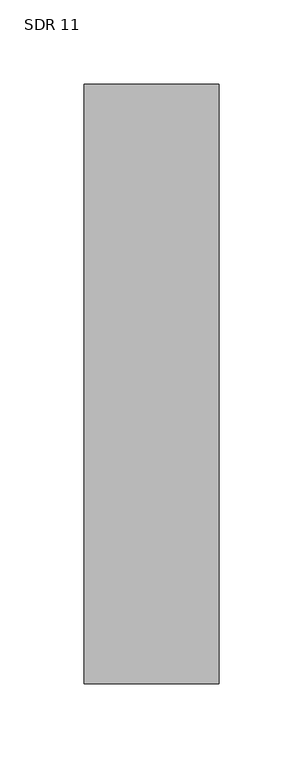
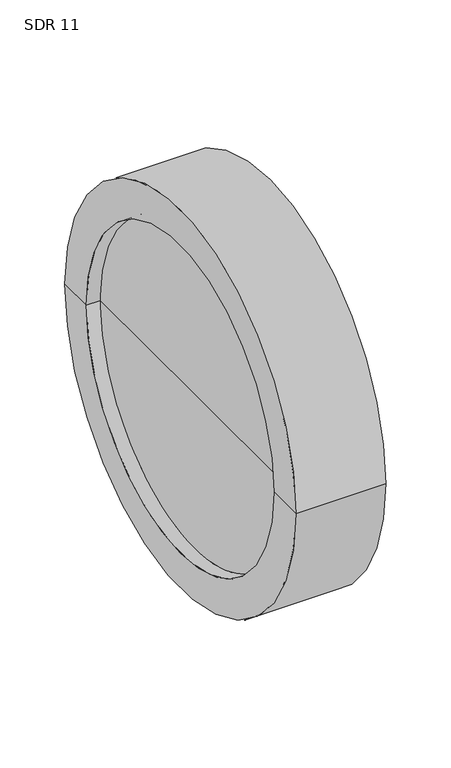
"""IFC4 building model written with IfcOpenShell, lengths in millimetres: pipe fitting geometry, Aquatherm - End Cap Butt-Weld : SDR 11."""

from ifc_helpers import new_model, si_unit, frame, origin, place, context, project, spatial, polyline, circle_curve, source, transform, mapped, element, save
from ifc_brep_helpers import plane_surface, cylinder_surface, revolved_surface, advanced_brep


def sdr_11_69ad29b8(model_context):
    return source(origin(), model_context, "Body", "AdvancedBrep", [
        advanced_brep(
        [(80.01, -177.8, 0.0), (80.01, 177.8, 0.0), (80.01, 0.0, 0.0), (12.446, 0.0, 0.0), (12.446, 144.78, 0.0), (12.446, -144.78, 0.0), (0.0, 144.78, 0.0), (0.0, -144.78, 0.0), (0.0, 177.8, 0.0), (0.0, -177.8, 0.0)],
        [
            (0, 1, circle_curve(frame((80.01, 0.0, 0.0), z_axis=(1.0, 0.0, 0.0), x_axis=(0.0, 1.0, 0.0)), 177.8)),
            (1, 2),
            (2, 0),
            (1, 0, circle_curve(frame((80.01, 0.0, 0.0), z_axis=(1.0, 0.0, 0.0), x_axis=(0.0, 1.0, 0.0)), 177.8)),
            (3, 4),
            (4, 5, circle_curve(frame((12.446, 0.0, 0.0), z_axis=(-1.0, 0.0, 0.0), x_axis=(0.0, 1.0, 0.0)), 144.78)),
            (5, 3),
            (5, 4, circle_curve(frame((12.446, 0.0, 0.0), z_axis=(-1.0, 0.0, 0.0), x_axis=(0.0, 1.0, 0.0)), 144.78)),
            (4, 6),
            (6, 7, circle_curve(frame((0.0, 0.0, 0.0), z_axis=(-1.0, 0.0, 0.0), x_axis=(0.0, 1.0, 0.0)), 144.78)),
            (7, 5),
            (7, 6, circle_curve(frame((0.0, 0.0, 0.0), z_axis=(-1.0, 0.0, 0.0), x_axis=(0.0, 1.0, 0.0)), 144.78)),
            (6, 8),
            (8, 9, circle_curve(frame((0.0, 0.0, 0.0), z_axis=(-1.0, 0.0, 0.0), x_axis=(0.0, 1.0, 0.0)), 177.8)),
            (9, 7),
            (9, 8, circle_curve(frame((0.0, 0.0, 0.0), z_axis=(-1.0, 0.0, 0.0), x_axis=(0.0, 1.0, 0.0)), 177.8)),
            (8, 1),
            (0, 9),
        ],
        [
            plane_surface(frame((80.01, 0.0, 0.0), z_axis=(1.0, 0.0, 0.0), x_axis=(0.0, 1.0, 0.0))),
            plane_surface(frame((12.446, 0.0, 0.0), z_axis=(-1.0, 0.0, 0.0), x_axis=(0.0, 1.0, 0.0))),
            revolved_surface(polyline([(0.0, 144.78, 0.0), (12.445999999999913, 144.78, 0.0)]), (-1363.98, 0.0, 0.0), (-1.0, 0.0, 0.0)),
            plane_surface(frame((0.0, 0.0, 0.0), z_axis=(-1.0, 0.0, 0.0), x_axis=(0.0, 1.0, 0.0))),
            cylinder_surface(frame((-1363.98, 0.0, 0.0), z_axis=(-1.0, 0.0, 0.0), x_axis=(0.0, 1.0, 0.0)), 177.8),
        ],
        [
            (0, [[1, 2, 3]]),
            (0, [[4, -3, -2]]),
            (1, [[5, 6, 7]]),
            (1, [[-7, 8, -5]]),
            (2, [[-6, 9, 10, 11]]),
            (2, [[-8, -11, 12, -9]]),
            (3, [[-10, 13, 14, 15]]),
            (3, [[-12, -15, 16, -13]]),
            (4, [[-14, 17, -1, 18]]),
            (4, [[-16, -18, -4, -17]]),
        ],
    ),
    ])


if __name__ == "__main__":
    model = new_model("IFC4")
    model_context = context("Model", 3, world=origin())
    ifc_project = project(units=[si_unit("LENGTHUNIT", "METRE", prefix="MILLI")], contexts=[model_context])
    site = spatial("IfcSite", under=ifc_project)
    building = spatial("IfcBuilding", under=site)
    placement = place(None, origin())
    sdr_11_shape = sdr_11_69ad29b8(model_context)
    element("IfcPipeFitting", 1, ObjectType="Aquatherm - End Cap Butt-Weld : SDR 11", at=placement, inside=building, context=model_context, shape_type="MappedRepresentation", body=[
        mapped(sdr_11_shape, transform((0.0, 0.0, 0.0), x_axis=(1.0, 0.0, 0.0), y_axis=(0.0, 1.0, 0.0), z_axis=(0.0, 0.0, 1.0))),
    ])
    save(model, "model.ifc")
